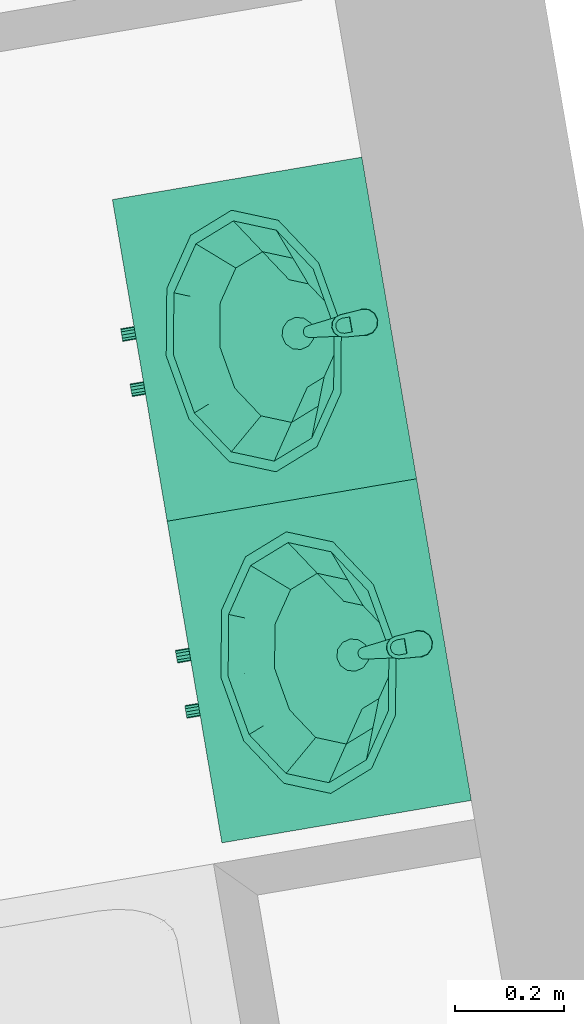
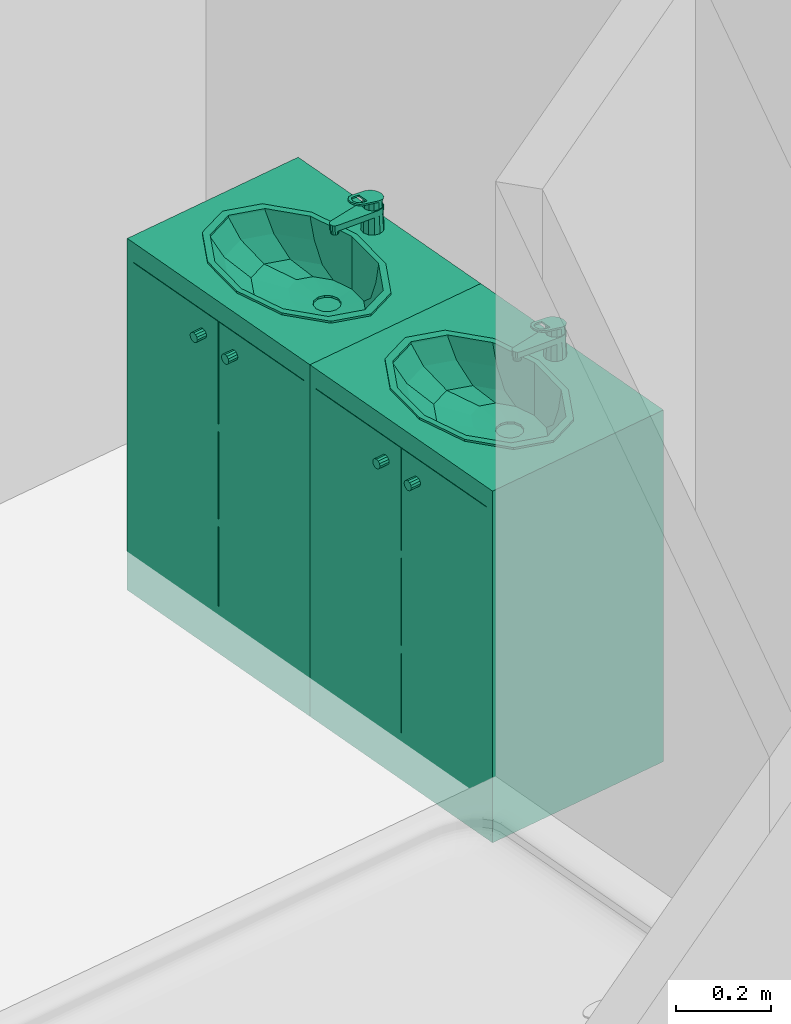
# One storey, part 94 of 121: 2 distribution elements.
"""IFC2X3 building model written with IfcOpenShell, lengths in metres."""

from ifc_helpers import new_model, entity, si_unit, converted_unit, derived_unit, money_unit, direction, frame, origin_with_axes, place, context, subcontext, project, spatial, open_shell, faceted_brep, surface_model, source, transform, mapped, type_object, element, save


model = new_model("IFC2X3")

# Units and contexts
model_context = context("Model", 3, precision=1e-05, world=origin_with_axes(), true_north=direction((0.0, 1.0)))
body_context = subcontext(model_context, "Body", "Model", "MODEL_VIEW")
ifc_project = project(units=[si_unit("LENGTHUNIT", "METRE"), si_unit("AREAUNIT", "SQUARE_METRE"), si_unit("VOLUMEUNIT", "CUBIC_METRE"), converted_unit("PLANEANGLEUNIT", "DEGREE", entity("IfcPlaneAngleMeasure", 0.0174532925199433), si_unit("PLANEANGLEUNIT", "RADIAN"), dimensions=[0, 0, 0, 0, 0, 0, 0]), money_unit("CHF"), converted_unit("TIMEUNIT", "Year", entity("IfcTimeMeasure", 31557600.0), si_unit("TIMEUNIT", "SECOND"), dimensions=[0, 0, 1, 0, 0, 0, 0]), si_unit("MASSUNIT", "GRAM", prefix="KILO"), si_unit("THERMODYNAMICTEMPERATUREUNIT", "DEGREE_CELSIUS"), si_unit("LUMINOUSINTENSITYUNIT", "LUMEN"), si_unit("ENERGYUNIT", "JOULE", prefix="MEGA"), derived_unit("THERMALCONDUCTANCEUNIT", [(si_unit("POWERUNIT", "WATT"), 1), (si_unit("LENGTHUNIT", "METRE"), -1), (si_unit("THERMODYNAMICTEMPERATUREUNIT", "KELVIN"), -1)]), derived_unit("SPECIFICHEATCAPACITYUNIT", [(si_unit("ENERGYUNIT", "JOULE"), 1), (si_unit("MASSUNIT", "GRAM", prefix="KILO"), -1), (si_unit("THERMODYNAMICTEMPERATUREUNIT", "KELVIN"), -1)]), derived_unit("MASSDENSITYUNIT", [(si_unit("MASSUNIT", "GRAM", prefix="KILO"), 1), (si_unit("VOLUMEUNIT", "CUBIC_METRE"), -1)])], contexts=[model_context])

# Site, building, storey
site_placement = place(None, origin_with_axes())
site = spatial("IfcSite", under=ifc_project, at=site_placement, Name="Site", CompositionType="ELEMENT")
building_placement = place(site_placement, origin_with_axes())
building = spatial("IfcBuilding", under=site, at=building_placement, Name="Bâtiment", CompositionType="ELEMENT")
storey_placement = place(building_placement, frame((0.0, 0.0, 2.75), z_axis=(0.0, 0.0, 1.0), x_axis=(1.0, 0.0, 0.0)))
storey = spatial("IfcBuildingStorey", under=building, at=storey_placement, Name="Etage 1", CompositionType="ELEMENT", Elevation=2.75)

# Distribution elements
distribution_element_type = type_object("IfcDistributionElementType", Name="Lavabo sur meuble 27")
shared_shape = source(origin_with_axes(), body_context, "Body", "SurfaceModel", [
    faceted_brep([(0.0, 0.0, 0.0), (0.6, 0.0, 0.0), (0.6, 0.0, 0.1), (0.0, 0.0, 0.1), (0.0, 0.4653441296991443, 0.0), (0.6, 0.4653441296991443, 0.0), (0.6, 0.4653441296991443, 0.1), (0.0, 0.4653441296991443, 0.1)], [[[0, 1, 2, 3]], [[0, 4, 5, 1]], [[1, 5, 6, 2]], [[3, 2, 6, 7]], [[4, 0, 3, 7]], [[5, 4, 7, 6]]]),
    faceted_brep([(0.0, 0.0, 0.1), (0.02, 0.0, 0.1), (0.02, 0.0, 0.12), (0.0, 0.0, 0.12), (0.0, 0.4653441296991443, 0.1), (0.02, 0.4653441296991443, 0.1), (0.58, 0.4653441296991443, 0.1), (0.6, 0.4653441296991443, 0.1), (0.6, 0.0, 0.1), (0.58, 0.0, 0.1), (0.58, 0.0, 0.12), (0.6, 0.0, 0.12), (0.6, 0.4653441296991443, 0.12), (0.58, 0.4653441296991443, 0.12), (0.02, 0.4653441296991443, 0.12), (0.0, 0.4653441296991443, 0.12)], [[[0, 1, 2, 3]], [[0, 4, 5, 6, 7, 8, 9, 1]], [[1, 9, 10, 2]], [[3, 2, 10, 11, 12, 13, 14, 15]], [[4, 0, 3, 15]], [[5, 4, 15, 14]], [[6, 5, 14, 13]], [[7, 6, 13, 12]], [[8, 7, 12, 11]], [[9, 8, 11, 10]]]),
    faceted_brep([(0.0, 0.0, 0.12), (0.02, 0.0, 0.12), (0.02, 0.0, 0.85), (0.0, 0.0, 0.85), (0.0, 0.4653441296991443, 0.12), (0.6, 0.4653441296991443, 0.12), (0.6, 0.0, 0.12), (0.58, 0.0, 0.12), (0.58, 0.4453441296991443, 0.12), (0.02, 0.4453441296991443, 0.12), (0.02, 0.4453441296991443, 0.85), (0.58, 0.4453441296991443, 0.85), (0.58, 0.0, 0.85), (0.6, 0.0, 0.85), (0.6, 0.4653441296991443, 0.85), (0.0, 0.4653441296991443, 0.85)], [[[0, 1, 2, 3]], [[0, 4, 5, 6, 7, 8, 9, 1]], [[1, 9, 10, 2]], [[3, 2, 10, 11, 12, 13, 14, 15]], [[4, 0, 3, 15]], [[5, 4, 15, 14]], [[6, 5, 14, 13]], [[7, 6, 13, 12]], [[8, 7, 12, 11]], [[9, 8, 11, 10]]]),
    faceted_brep([(0.58, 0.0, 0.3233333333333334), (0.58, 0.4453441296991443, 0.3233333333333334), (0.58, 0.4453441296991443, 0.3433333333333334), (0.58, 0.0, 0.3433333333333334), (0.02, 0.0, 0.3233333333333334), (0.02, 0.4453441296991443, 0.3233333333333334), (0.02, 0.4453441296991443, 0.3433333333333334), (0.02, 0.0, 0.3433333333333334)], [[[0, 1, 2, 3]], [[0, 4, 5, 1]], [[1, 5, 6, 2]], [[3, 2, 6, 7]], [[4, 0, 3, 7]], [[5, 4, 7, 6]]]),
    faceted_brep([(0.58, 0.0, 0.5666666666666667), (0.58, 0.4453441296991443, 0.5666666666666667), (0.58, 0.4453441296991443, 0.5866666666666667), (0.58, 0.0, 0.5866666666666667), (0.02, 0.0, 0.5666666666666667), (0.02, 0.4453441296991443, 0.5666666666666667), (0.02, 0.4453441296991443, 0.5866666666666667), (0.02, 0.0, 0.5866666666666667)], [[[0, 1, 2, 3]], [[0, 4, 5, 1]], [[1, 5, 6, 2]], [[3, 2, 6, 7]], [[4, 0, 3, 7]], [[5, 4, 7, 6]]]),
    faceted_brep([(0.0, 0.4653441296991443, 0.85), (0.6, 0.4653441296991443, 0.85), (0.6, 0.0, 0.85), (0.0, 0.0, 0.85), (0.4124999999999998, 0.08276825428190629, 0.85), (0.4948557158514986, 0.137672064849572, 0.85), (0.525, 0.2126720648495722, 0.85), (0.4948557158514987, 0.2876720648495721, 0.85), (0.4125, 0.3425758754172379, 0.85), (0.3, 0.3626720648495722, 0.85), (0.1875000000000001, 0.342575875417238, 0.85), (0.1051442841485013, 0.2876720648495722, 0.85), (0.07499999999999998, 0.2126720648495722, 0.85), (0.1051442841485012, 0.1376720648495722, 0.85), (0.1874999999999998, 0.08276825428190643, 0.85), (0.3, 0.06267206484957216, 0.85), (0.0, 0.4653441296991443, 0.9), (0.6, 0.4653441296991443, 0.9), (0.6, 0.0, 0.9), (0.0, 0.0, 0.9), (0.4124999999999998, 0.08276825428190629, 0.9), (0.4948557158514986, 0.137672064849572, 0.9), (0.525, 0.2126720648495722, 0.9), (0.4948557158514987, 0.2876720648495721, 0.9), (0.4125, 0.3425758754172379, 0.9), (0.3, 0.3626720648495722, 0.9), (0.1875000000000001, 0.342575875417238, 0.9), (0.1051442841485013, 0.2876720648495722, 0.9), (0.07499999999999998, 0.2126720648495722, 0.9), (0.1051442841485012, 0.1376720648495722, 0.9), (0.1874999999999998, 0.08276825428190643, 0.9), (0.3, 0.06267206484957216, 0.9)], [[[0, 1, 2, 3], [4, 5, 6, 7, 8, 9, 10, 11, 12, 13, 14, 15]], [[0, 16, 17, 1]], [[1, 17, 18, 2]], [[2, 18, 19, 3]], [[3, 19, 16, 0]], [[20, 21, 5, 4]], [[21, 22, 6, 5]], [[22, 23, 7, 6]], [[23, 24, 8, 7]], [[24, 25, 9, 8]], [[25, 26, 10, 9]], [[26, 27, 11, 10]], [[27, 28, 12, 11]], [[28, 29, 13, 12]], [[29, 30, 14, 13]], [[30, 31, 15, 14]], [[31, 20, 4, 15]], [[18, 17, 16, 19], [24, 23, 22, 21, 20, 31, 30, 29, 28, 27, 26, 25]]]),
    faceted_brep([(0.544, 0.2126720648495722, 0.905), (0.544, 0.2126720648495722, 0.9), (0.511310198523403, 0.2943684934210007, 0.9), (0.511310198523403, 0.2943684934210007, 0.905), (0.5113101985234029, 0.1309756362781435, 0.905), (0.5113101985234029, 0.1309756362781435, 0.9), (0.4219999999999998, 0.07116969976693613, 0.9), (0.3, 0.04927920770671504, 0.9), (0.1779999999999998, 0.07116969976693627, 0.9), (0.08868980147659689, 0.1309756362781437, 0.9), (0.05599999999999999, 0.2126720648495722, 0.9), (0.088689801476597, 0.2943684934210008, 0.9), (0.178, 0.3541744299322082, 0.9), (0.3, 0.3760649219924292, 0.9), (0.422, 0.3541744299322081, 0.9), (0.524, 0.2126720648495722, 0.9), (0.4939896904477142, 0.2876720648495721, 0.9), (0.412, 0.3425758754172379, 0.9), (0.3, 0.3626720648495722, 0.9), (0.1880000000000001, 0.342575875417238, 0.9), (0.1060103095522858, 0.2876720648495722, 0.9), (0.07599999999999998, 0.2126720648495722, 0.9), (0.1060103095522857, 0.1376720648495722, 0.9), (0.1879999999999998, 0.08276825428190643, 0.9), (0.3, 0.06267206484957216, 0.9), (0.4119999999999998, 0.08276825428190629, 0.9), (0.4939896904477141, 0.137672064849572, 0.9), (0.422, 0.3541744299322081, 0.905), (0.3, 0.3760649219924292, 0.905), (0.178, 0.3541744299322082, 0.905), (0.088689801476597, 0.2943684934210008, 0.905), (0.05599999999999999, 0.2126720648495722, 0.905), (0.08868980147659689, 0.1309756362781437, 0.905), (0.1779999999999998, 0.07116969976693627, 0.905), (0.3, 0.04927920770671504, 0.905), (0.4219999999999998, 0.07116969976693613, 0.905), (0.524, 0.2126720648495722, 0.905), (0.4939896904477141, 0.137672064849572, 0.905), (0.4119999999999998, 0.08276825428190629, 0.905), (0.3, 0.06267206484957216, 0.905), (0.1879999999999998, 0.08276825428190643, 0.905), (0.1060103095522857, 0.1376720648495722, 0.905), (0.07599999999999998, 0.2126720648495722, 0.905), (0.1060103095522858, 0.2876720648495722, 0.905), (0.1880000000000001, 0.342575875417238, 0.905), (0.3, 0.3626720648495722, 0.905), (0.412, 0.3425758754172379, 0.905), (0.4939896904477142, 0.2876720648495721, 0.905)], [[[0, 1, 2, 3]], [[4, 5, 1, 0]], [[1, 5, 6, 7, 8, 9, 10, 11, 12, 13, 14, 2], [15, 16, 17, 18, 19, 20, 21, 22, 23, 24, 25, 26]], [[3, 2, 14, 27]], [[0, 3, 27, 28, 29, 30, 31, 32, 33, 34, 35, 4], [36, 37, 38, 39, 40, 41, 42, 43, 44, 45, 46, 47]], [[35, 6, 5, 4]], [[34, 7, 6, 35]], [[33, 8, 7, 34]], [[32, 9, 8, 33]], [[31, 10, 9, 32]], [[30, 11, 10, 31]], [[29, 12, 11, 30]], [[28, 13, 12, 29]], [[27, 14, 13, 28]], [[47, 16, 15, 36]], [[46, 17, 16, 47]], [[45, 18, 17, 46]], [[44, 19, 18, 45]], [[43, 20, 19, 44]], [[42, 21, 20, 43]], [[41, 22, 21, 42]], [[40, 23, 22, 41]], [[39, 24, 23, 40]], [[38, 25, 24, 39]], [[37, 26, 25, 38]], [[36, 15, 26, 37]]]),
    surface_model("IfcShellBasedSurfaceModel", [(0.3, 0.3626720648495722, 0.9), (0.3, 0.3626720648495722, 0.848), (0.4008, 0.3445854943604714, 0.848), (0.412, 0.342575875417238, 0.9), (0.1879999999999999, 0.3425758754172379, 0.9), (0.1991999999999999, 0.3445854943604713, 0.848), (0.4745907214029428, 0.2951720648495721, 0.848), (0.4939896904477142, 0.2876720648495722, 0.9), (0.1060103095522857, 0.2876720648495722, 0.9), (0.1254092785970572, 0.2951720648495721, 0.848), (0.5016, 0.2276720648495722, 0.848), (0.524, 0.2126720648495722, 0.9), (0.07599999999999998, 0.2126720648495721, 0.9), (0.09839999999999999, 0.2276720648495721, 0.848), (0.4745907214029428, 0.1601720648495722, 0.848), (0.4939896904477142, 0.1376720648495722, 0.9), (0.1060103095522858, 0.1376720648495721, 0.9), (0.1254092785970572, 0.1601720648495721, 0.848), (0.4008, 0.1107586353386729, 0.848), (0.412, 0.08276825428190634, 0.9), (0.1879999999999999, 0.08276825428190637, 0.9), (0.1992, 0.110758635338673, 0.848), (0.3, 0.09267206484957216, 0.848), (0.3, 0.06267206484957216, 0.9)], [open_shell([[[0, 1, 2, 3]], [[4, 5, 1, 0]], [[3, 2, 6, 7]], [[8, 9, 5, 4]], [[7, 6, 10, 11]], [[12, 13, 9, 8]], [[11, 10, 14, 15]], [[16, 17, 13, 12]], [[15, 14, 18, 19]], [[20, 21, 17, 16]], [[19, 18, 22, 23]], [[23, 22, 21, 20]]])]),
    surface_model("IfcShellBasedSurfaceModel", [(0.3, 0.3626720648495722, 0.848), (0.3, 0.3626720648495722, 0.7959999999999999), (0.379632, 0.3483836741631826, 0.7959999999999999), (0.4008, 0.3445854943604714, 0.848), (0.1991999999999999, 0.3445854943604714, 0.848), (0.2203679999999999, 0.3483836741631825, 0.7959999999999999), (0.4379266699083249, 0.3093470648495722, 0.7959999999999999), (0.4745907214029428, 0.2951720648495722, 0.848), (0.1254092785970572, 0.2951720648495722, 0.848), (0.1620733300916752, 0.3093470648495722, 0.7959999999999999), (0.459264, 0.2560220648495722, 0.7959999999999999), (0.5016, 0.2276720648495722, 0.848), (0.09839999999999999, 0.2276720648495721, 0.848), (0.140736, 0.2560220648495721, 0.7959999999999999), (0.4379266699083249, 0.2026970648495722, 0.7959999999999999), (0.4745907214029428, 0.1601720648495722, 0.848), (0.1254092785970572, 0.1601720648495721, 0.848), (0.1620733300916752, 0.2026970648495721, 0.7959999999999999), (0.379632, 0.1636604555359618, 0.7959999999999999), (0.4008, 0.1107586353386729, 0.848), (0.1992, 0.110758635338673, 0.848), (0.220368, 0.1636604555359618, 0.7959999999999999), (0.3, 0.1493720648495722, 0.7959999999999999), (0.3, 0.09267206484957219, 0.848)], [open_shell([[[0, 1, 2, 3]], [[4, 5, 1, 0]], [[3, 2, 6, 7]], [[8, 9, 5, 4]], [[7, 6, 10, 11]], [[12, 13, 9, 8]], [[11, 10, 14, 15]], [[16, 17, 13, 12]], [[15, 14, 18, 19]], [[20, 21, 17, 16]], [[19, 18, 22, 23]], [[23, 22, 21, 20]]])]),
    surface_model("IfcShellBasedSurfaceModel", [(0.3, 0.3626720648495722, 0.7959999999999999), (0.3, 0.3626720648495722, 0.7699999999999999), (0.35016816, 0.3536703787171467, 0.7699999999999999), (0.379632, 0.3483836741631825, 0.7959999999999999), (0.2203679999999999, 0.3483836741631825, 0.7959999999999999), (0.2498318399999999, 0.3536703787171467, 0.7699999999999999), (0.3868938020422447, 0.3290773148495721, 0.7699999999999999), (0.4379266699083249, 0.3093470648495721, 0.7959999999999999), (0.1620733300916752, 0.3093470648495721, 0.7959999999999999), (0.2131061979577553, 0.3290773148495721, 0.7699999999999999), (0.40033632, 0.2954825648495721, 0.7699999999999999), (0.459264, 0.2560220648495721, 0.7959999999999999), (0.140736, 0.2560220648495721, 0.7959999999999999), (0.19966368, 0.2954825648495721, 0.7699999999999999), (0.3868938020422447, 0.2618878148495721, 0.7699999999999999), (0.4379266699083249, 0.2026970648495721, 0.7959999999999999), (0.1620733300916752, 0.2026970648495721, 0.7959999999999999), (0.2131061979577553, 0.2618878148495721, 0.7699999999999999), (0.35016816, 0.2372947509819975, 0.7699999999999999), (0.379632, 0.1636604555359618, 0.7959999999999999), (0.220368, 0.1636604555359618, 0.7959999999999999), (0.24983184, 0.2372947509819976, 0.7699999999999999), (0.3, 0.2282930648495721, 0.7699999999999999), (0.3, 0.1493720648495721, 0.7959999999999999)], [open_shell([[[0, 1, 2, 3]], [[4, 5, 1, 0]], [[3, 2, 6, 7]], [[8, 9, 5, 4]], [[7, 6, 10, 11]], [[12, 13, 9, 8]], [[11, 10, 14, 15]], [[16, 17, 13, 12]], [[15, 14, 18, 19]], [[20, 21, 17, 16]], [[19, 18, 22, 23]], [[23, 22, 21, 20]]])]),
    surface_model("IfcShellBasedSurfaceModel", [(0.3, 0.3626720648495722, 0.7699999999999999), (0.315, 0.3214633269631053, 0.7629999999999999), (0.35016816, 0.3536703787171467, 0.7699999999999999), (0.3, 0.3254825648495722, 0.7629999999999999), (0.3259807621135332, 0.3104825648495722, 0.7629999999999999), (0.2498318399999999, 0.3536703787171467, 0.7699999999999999), (0.3868938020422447, 0.3290773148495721, 0.7699999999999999), (0.285, 0.3214633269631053, 0.7629999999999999), (0.33, 0.2954825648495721, 0.7629999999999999), (0.2131061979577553, 0.3290773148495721, 0.7699999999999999), (0.40033632, 0.2954825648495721, 0.7699999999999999), (0.2740192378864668, 0.3104825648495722, 0.7629999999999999), (0.3259807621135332, 0.2804825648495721, 0.7629999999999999), (0.19966368, 0.2954825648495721, 0.7699999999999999), (0.3868938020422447, 0.2618878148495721, 0.7699999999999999), (0.27, 0.2954825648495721, 0.7629999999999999), (0.315, 0.269501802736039, 0.7629999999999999), (0.2131061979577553, 0.2618878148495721, 0.7699999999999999), (0.35016816, 0.2372947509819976, 0.7699999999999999), (0.2740192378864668, 0.2804825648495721, 0.7629999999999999), (0.3, 0.2654825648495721, 0.7629999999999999), (0.24983184, 0.2372947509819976, 0.7699999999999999), (0.3, 0.2282930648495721, 0.7699999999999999), (0.285, 0.269501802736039, 0.7629999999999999)], [open_shell([[[0, 1, 2]], [[0, 3, 1]], [[2, 1, 4]], [[5, 3, 0]], [[2, 4, 6]], [[5, 7, 3]], [[6, 4, 8]], [[9, 7, 5]], [[6, 8, 10]], [[9, 11, 7]], [[10, 8, 12]], [[13, 11, 9]], [[10, 12, 14]], [[13, 15, 11]], [[14, 12, 16]], [[17, 15, 13]], [[14, 16, 18]], [[17, 19, 15]], [[18, 16, 20]], [[21, 19, 17]], [[18, 20, 22]], [[21, 23, 19]], [[22, 20, 23]], [[22, 23, 21]]])]),
    surface_model("IfcShellBasedSurfaceModel", [(0.33, 0.2954825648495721, 0.763), (0.33, 0.2954825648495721, 0.758), (0.3259807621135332, 0.3104825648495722, 0.758), (0.3259807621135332, 0.3104825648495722, 0.763), (0.3259807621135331, 0.2804825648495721, 0.763), (0.3259807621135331, 0.2804825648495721, 0.758), (0.3149999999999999, 0.269501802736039, 0.758), (0.3, 0.2654825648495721, 0.758), (0.285, 0.269501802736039, 0.758), (0.2740192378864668, 0.2804825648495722, 0.758), (0.27, 0.2954825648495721, 0.758), (0.2740192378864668, 0.3104825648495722, 0.758), (0.285, 0.3214633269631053, 0.758), (0.3, 0.3254825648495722, 0.758), (0.315, 0.3214633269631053, 0.758), (0.315, 0.3214633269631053, 0.763), (0.3149999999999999, 0.269501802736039, 0.763), (0.3, 0.2654825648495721, 0.763), (0.285, 0.269501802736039, 0.763), (0.2740192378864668, 0.2804825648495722, 0.763), (0.27, 0.2954825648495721, 0.763), (0.2740192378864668, 0.3104825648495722, 0.763), (0.285, 0.3214633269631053, 0.763), (0.3, 0.3254825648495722, 0.763)], [open_shell([[[0, 1, 2, 3]], [[4, 5, 1, 0]], [[1, 5, 6, 7, 8, 9, 10, 11, 12, 13, 14, 2]], [[3, 2, 14, 15]], [[16, 6, 5, 4]], [[17, 7, 6, 16]], [[18, 8, 7, 17]], [[19, 9, 8, 18]], [[20, 10, 9, 19]], [[21, 11, 10, 20]], [[22, 12, 11, 21]], [[23, 13, 12, 22]], [[15, 14, 13, 23]]])]),
    faceted_brep([(0.3125, 0.4406587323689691, 0.9), (0.3, 0.4440080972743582, 0.9), (0.3, 0.4402100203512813, 0.9759615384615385), (0.310587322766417, 0.4373458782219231, 0.976507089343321), (0.3216506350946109, 0.4315080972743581, 0.9), (0.325, 0.4190080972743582, 0.9), (0.3216506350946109, 0.4065080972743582, 0.9), (0.3125, 0.3973574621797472, 0.9), (0.3, 0.3940080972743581, 0.9), (0.2875, 0.3973574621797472, 0.9), (0.278349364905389, 0.4065080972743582, 0.9), (0.275, 0.4190080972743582, 0.9), (0.278349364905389, 0.4315080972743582, 0.9), (0.2875, 0.4406587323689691, 0.9), (0.289412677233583, 0.4373458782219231, 0.976507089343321), (0.2817264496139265, 0.4295583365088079, 0.9779904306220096), (0.279, 0.4190080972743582, 0.98), (0.2818996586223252, 0.4085578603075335, 0.9819905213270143), (0.2895858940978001, 0.400970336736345, 0.9834357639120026), (0.3, 0.3982062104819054, 0.9839622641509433), (0.3104141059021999, 0.400970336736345, 0.9834357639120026), (0.3181003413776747, 0.4085578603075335, 0.9819905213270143), (0.321, 0.4190080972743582, 0.98), (0.3182735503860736, 0.4295583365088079, 0.9779904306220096)], [[[0, 1, 2, 3]], [[0, 4, 5, 6, 7, 8, 9, 10, 11, 12, 13, 1]], [[1, 13, 14, 2]], [[3, 2, 14, 15, 16, 17, 18, 19, 20, 21, 22, 23]], [[4, 0, 3, 23]], [[5, 4, 23, 22]], [[6, 5, 22, 21]], [[7, 6, 21, 20]], [[8, 7, 20, 19]], [[9, 8, 19, 18]], [[10, 9, 18, 17]], [[11, 10, 17, 16]], [[12, 11, 16, 15]], [[13, 12, 15, 14]]]),
    faceted_brep([(0.309, 0.3160080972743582, 0.935), (0.3077942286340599, 0.3205080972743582, 0.935), (0.3077942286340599, 0.3205080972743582, 0.9450000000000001), (0.309, 0.3160080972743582, 0.9450000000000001), (0.3077942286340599, 0.3115080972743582, 0.935), (0.3045, 0.3082138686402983, 0.935), (0.3, 0.3070080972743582, 0.935), (0.2955, 0.3082138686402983, 0.935), (0.2922057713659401, 0.3115080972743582, 0.935), (0.291, 0.3160080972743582, 0.935), (0.2922057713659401, 0.3205080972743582, 0.935), (0.2955, 0.3238023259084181, 0.935), (0.3, 0.3250080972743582, 0.935), (0.3045, 0.3238023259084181, 0.935), (0.3045, 0.3238023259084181, 0.9450000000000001), (0.3, 0.3250080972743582, 0.9450000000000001), (0.2955, 0.3238023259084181, 0.9450000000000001), (0.2922057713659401, 0.3205080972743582, 0.9450000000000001), (0.291, 0.3160080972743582, 0.9450000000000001), (0.2922057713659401, 0.3115080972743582, 0.9450000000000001), (0.2955, 0.3082138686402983, 0.9450000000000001), (0.3, 0.3070080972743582, 0.9450000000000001), (0.3045, 0.3082138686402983, 0.9450000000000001), (0.3077942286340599, 0.3115080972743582, 0.9450000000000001)], [[[0, 1, 2, 3]], [[0, 4, 5, 6, 7, 8, 9, 10, 11, 12, 13, 1]], [[1, 13, 14, 2]], [[3, 2, 14, 15, 16, 17, 18, 19, 20, 21, 22, 23]], [[4, 0, 3, 23]], [[5, 4, 23, 22]], [[6, 5, 22, 21]], [[7, 6, 21, 20]], [[8, 7, 20, 19]], [[9, 8, 19, 18]], [[10, 9, 18, 17]], [[11, 10, 17, 16]], [[12, 11, 16, 15]], [[13, 12, 15, 14]]]),
    faceted_brep([(0.2871282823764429, 0.439264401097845, 0.9600000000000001), (0.2782721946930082, 0.4292013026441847, 0.9600000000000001), (0.2761946, 0.4159581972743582, 0.9600000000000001), (0.2890880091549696, 0.3146197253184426, 0.9600000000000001), (0.2909711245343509, 0.3097249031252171, 0.9600000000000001), (0.2949066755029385, 0.3062583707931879, 0.9600000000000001), (0.300000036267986, 0.305008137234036, 0.9600000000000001), (0.3050933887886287, 0.3062584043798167, 0.9600000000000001), (0.309028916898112, 0.3097249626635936, 0.9600000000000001), (0.310912, 0.3146197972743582, 0.9600000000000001), (0.3238053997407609, 0.4159581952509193, 0.9600000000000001), (0.3217278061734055, 0.4292013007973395, 0.9600000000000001), (0.3128717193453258, 0.4392644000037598, 0.9600000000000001), (0.300000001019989, 0.44300807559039, 0.9600000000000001), (0.311, 0.4380606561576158, 0.9600000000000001), (0.3190525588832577, 0.4300080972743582, 0.9600000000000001), (0.322, 0.4190080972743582, 0.9600000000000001), (0.3190525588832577, 0.4080080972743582, 0.9600000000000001), (0.3109999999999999, 0.3999555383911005, 0.9600000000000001), (0.3, 0.3970080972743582, 0.9600000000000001), (0.289, 0.3999555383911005, 0.9600000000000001), (0.2809474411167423, 0.4080080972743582, 0.9600000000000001), (0.278, 0.4190080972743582, 0.9600000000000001), (0.2809474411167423, 0.4300080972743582, 0.9600000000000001), (0.289, 0.4380606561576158, 0.9600000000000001), (0.3, 0.4410080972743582, 0.9600000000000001), (0.2782721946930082, 0.4292013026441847, 0.9450000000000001), (0.2871282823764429, 0.439264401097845, 0.9450000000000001), (0.2761946, 0.4159581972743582, 0.9450000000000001), (0.2890880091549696, 0.3146197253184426, 0.9450000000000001), (0.2909711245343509, 0.3097249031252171, 0.9450000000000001), (0.2949066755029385, 0.3062583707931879, 0.9450000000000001), (0.300000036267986, 0.305008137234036, 0.9450000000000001), (0.3050933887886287, 0.3062584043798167, 0.9450000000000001), (0.309028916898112, 0.3097249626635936, 0.9450000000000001), (0.310912, 0.3146197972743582, 0.9450000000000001), (0.3238053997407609, 0.4159581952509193, 0.9450000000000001), (0.3217278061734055, 0.4292013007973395, 0.9450000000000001), (0.3128717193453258, 0.4392644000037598, 0.9450000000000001), (0.300000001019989, 0.44300807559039, 0.9450000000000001), (0.311375, 0.4387101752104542, 0.9450000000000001), (0.319702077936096, 0.4303830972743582, 0.9450000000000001), (0.32275, 0.4190080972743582, 0.9450000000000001), (0.319702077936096, 0.4076330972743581, 0.9450000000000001), (0.311375, 0.3993060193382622, 0.9450000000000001), (0.3, 0.3962580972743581, 0.9450000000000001), (0.288625, 0.3993060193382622, 0.9450000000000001), (0.280297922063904, 0.4076330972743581, 0.9450000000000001), (0.2772499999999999, 0.4190080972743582, 0.9450000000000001), (0.280297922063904, 0.4303830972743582, 0.9450000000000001), (0.288625, 0.4387101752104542, 0.9450000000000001), (0.3, 0.4417580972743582, 0.9450000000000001)], [[[0, 1, 2, 3, 4, 5, 6, 7, 8, 9, 10, 11, 12, 13], [14, 15, 16, 17, 18, 19, 20, 21, 22, 23, 24, 25]], [[26, 1, 0, 27]], [[28, 2, 1, 26]], [[29, 3, 2, 28]], [[30, 4, 3, 29]], [[31, 5, 4, 30]], [[32, 6, 5, 31]], [[33, 7, 6, 32]], [[34, 8, 7, 33]], [[35, 9, 8, 34]], [[36, 10, 9, 35]], [[37, 11, 10, 36]], [[38, 12, 11, 37]], [[39, 13, 12, 38]], [[27, 0, 13, 39]], [[40, 41, 15, 14]], [[41, 42, 16, 15]], [[42, 43, 17, 16]], [[43, 44, 18, 17]], [[44, 45, 19, 18]], [[20, 19, 45, 46]], [[21, 20, 46, 47]], [[22, 21, 47, 48]], [[23, 22, 48, 49]], [[24, 23, 49, 50]], [[50, 51, 25, 24]], [[51, 40, 14, 25]], [[32, 31, 30, 29, 28, 26, 27, 39, 38, 37, 36, 35, 34, 33], [44, 43, 42, 41, 40, 51, 50, 49, 48, 47, 46, 45]]]),
    faceted_brep([(0.323893, 0.4173155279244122, 0.9803223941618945), (0.3212964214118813, 0.4297828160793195, 0.9779476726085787), (0.3212964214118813, 0.4305312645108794, 0.9818770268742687), (0.323893, 0.4180639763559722, 0.9842517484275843), (0.3209459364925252, 0.377171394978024, 0.9879688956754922), (0.317663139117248, 0.3674937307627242, 0.9898122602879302), (0.3100614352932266, 0.3605443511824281, 0.9911359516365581), (0.2999995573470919, 0.3580224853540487, 0.9916163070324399), (0.289937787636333, 0.3605447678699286, 0.9911358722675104), (0.2823363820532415, 0.3674944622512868, 0.9898121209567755), (0.279054, 0.3771722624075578, 0.9879687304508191), (0.2761069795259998, 0.4173158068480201, 0.9803223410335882), (0.2787037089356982, 0.4297830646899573, 0.9779476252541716), (0.2875283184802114, 0.4390992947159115, 0.976173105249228), (0.3000001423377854, 0.4425400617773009, 0.9755177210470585), (0.3124719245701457, 0.4390991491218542, 0.9761731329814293), (0.314, 0.3934672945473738, 0.9848649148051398), (0.286, 0.3934672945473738, 0.9848649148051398), (0.286, 0.37865166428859, 0.9876869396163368), (0.2878756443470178, 0.3717752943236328, 0.9889967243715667), (0.293, 0.3667414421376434, 0.9899555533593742), (0.3, 0.3648989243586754, 0.9903065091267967), (0.307, 0.3667414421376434, 0.9899555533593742), (0.3121243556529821, 0.3717752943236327, 0.9889967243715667), (0.314, 0.37865166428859, 0.9876869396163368), (0.3124719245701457, 0.4398475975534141, 0.9801024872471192), (0.3000001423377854, 0.4432885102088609, 0.9794470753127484), (0.2875283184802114, 0.4398477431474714, 0.9801024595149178), (0.2787037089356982, 0.4305315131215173, 0.9818769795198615), (0.2761069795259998, 0.4180642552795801, 0.9842516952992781), (0.279054, 0.3779207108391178, 0.991898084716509), (0.2823363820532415, 0.3682429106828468, 0.9937414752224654), (0.289937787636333, 0.3612932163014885, 0.9950652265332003), (0.2999995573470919, 0.3587709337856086, 0.9955456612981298), (0.3100614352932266, 0.3612927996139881, 0.995065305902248), (0.317663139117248, 0.3682421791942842, 0.9937416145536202), (0.3209459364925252, 0.377919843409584, 0.9918982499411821), (0.314, 0.3942157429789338, 0.9887942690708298), (0.314, 0.3794001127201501, 0.9916162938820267), (0.3121243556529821, 0.3725237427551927, 0.9929260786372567), (0.307, 0.3674898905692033, 0.9938849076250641), (0.3, 0.3656473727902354, 0.9942358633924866), (0.293, 0.3674898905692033, 0.9938849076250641), (0.2878756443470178, 0.3725237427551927, 0.9929260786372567), (0.286, 0.3794001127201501, 0.9916162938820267), (0.286, 0.3942157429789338, 0.9887942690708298)], [[[0, 1, 2, 3]], [[0, 4, 5, 6, 7, 8, 9, 10, 11, 12, 13, 14, 15, 1], [16, 17, 18, 19, 20, 21, 22, 23, 24]], [[1, 15, 25, 2]], [[3, 2, 25, 26, 27, 28, 29, 30, 31, 32, 33, 34, 35, 36], [37, 38, 39, 40, 41, 42, 43, 44, 45]], [[4, 0, 3, 36]], [[5, 4, 36, 35]], [[6, 5, 35, 34]], [[7, 6, 34, 33]], [[8, 7, 33, 32]], [[9, 8, 32, 31]], [[10, 9, 31, 30]], [[11, 10, 30, 29]], [[12, 11, 29, 28]], [[13, 12, 28, 27]], [[14, 13, 27, 26]], [[15, 14, 26, 25]], [[17, 16, 37, 45]], [[18, 17, 45, 44]], [[19, 18, 44, 43]], [[20, 19, 43, 42]], [[21, 20, 42, 41]], [[22, 21, 41, 40]], [[23, 22, 40, 39]], [[24, 23, 39, 38]], [[16, 24, 38, 37]]]),
    surface_model("IfcShellBasedSurfaceModel", [(0.001500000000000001, 0.0, 0.1015), (0.001500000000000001, 0.0, 0.8485), (0.2985, 0.0, 0.8485), (0.2985, 0.0, 0.1015)], [open_shell([[[0, 1, 2, 3]]])]),
    faceted_brep([(0.2588923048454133, 0.0, 0.7855), (0.2545, 0.0, 0.7811076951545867), (0.2485, 0.0, 0.7795), (0.2425, 0.0, 0.7811076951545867), (0.2381076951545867, 0.0, 0.7855), (0.2365, 0.0, 0.7915), (0.2381076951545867, 0.0, 0.7975), (0.2425, 0.0, 0.8018923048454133), (0.2485, 0.0, 0.8035), (0.2545, 0.0, 0.8018923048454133), (0.2588923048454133, 0.0, 0.7975), (0.2605, 0.0, 0.7915), (0.2588923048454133, -0.025, 0.7855), (0.2545, -0.025, 0.7811076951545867), (0.2485, -0.025, 0.7795), (0.2425, -0.025, 0.7811076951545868), (0.2381076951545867, -0.025, 0.7855), (0.2365, -0.025, 0.7915), (0.2381076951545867, -0.025, 0.7975), (0.2425, -0.025, 0.8018923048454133), (0.2485, -0.025, 0.8035), (0.2545, -0.025, 0.8018923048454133), (0.2588923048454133, -0.025, 0.7975), (0.2605, -0.025, 0.7915)], [[[0, 1, 2, 3, 4, 5, 6, 7, 8, 9, 10, 11]], [[1, 0, 12, 13]], [[2, 1, 13, 14]], [[3, 2, 14, 15]], [[4, 3, 15, 16]], [[5, 4, 16, 17]], [[6, 5, 17, 18]], [[7, 6, 18, 19]], [[8, 7, 19, 20]], [[9, 8, 20, 21]], [[10, 9, 21, 22]], [[11, 10, 22, 23]], [[0, 11, 23, 12]], [[12, 23, 22, 21, 20, 19, 18, 17, 16, 15, 14, 13]]]),
    surface_model("IfcShellBasedSurfaceModel", [(0.5985, 0.0, 0.1015), (0.3015000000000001, 0.0, 0.1015), (0.3015000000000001, 0.0, 0.8485), (0.5985, 0.0, 0.8485)], [open_shell([[[0, 1, 2, 3]]])]),
    faceted_brep([(0.3411076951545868, 0.0, 0.7855), (0.3395, 0.0, 0.7915), (0.3411076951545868, 0.0, 0.7975), (0.3455, 0.0, 0.8018923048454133), (0.3515, 0.0, 0.8035), (0.3575, 0.0, 0.8018923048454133), (0.3618923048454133, 0.0, 0.7975), (0.3635, 0.0, 0.7915), (0.3618923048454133, 0.0, 0.7855), (0.3575, 0.0, 0.7811076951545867), (0.3515, 0.0, 0.7795), (0.3455, 0.0, 0.7811076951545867), (0.3411076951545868, -0.025, 0.7855), (0.3395, -0.025, 0.7915), (0.3411076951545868, -0.025, 0.7975), (0.3455, -0.025, 0.8018923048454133), (0.3515, -0.025, 0.8035), (0.3575, -0.025, 0.8018923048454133), (0.3618923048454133, -0.025, 0.7975), (0.3635, -0.025, 0.7915), (0.3618923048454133, -0.025, 0.7855), (0.3575, -0.025, 0.7811076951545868), (0.3515, -0.025, 0.7795), (0.3455, -0.025, 0.7811076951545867)], [[[0, 1, 2, 3, 4, 5, 6, 7, 8, 9, 10, 11]], [[0, 12, 13, 1]], [[1, 13, 14, 2]], [[2, 14, 15, 3]], [[3, 15, 16, 4]], [[4, 16, 17, 5]], [[5, 17, 18, 6]], [[6, 18, 19, 7]], [[7, 19, 20, 8]], [[8, 20, 21, 9]], [[9, 21, 22, 10]], [[10, 22, 23, 11]], [[11, 23, 12, 0]], [[12, 23, 22, 21, 20, 19, 18, 17, 16, 15, 14, 13]]]),
])
for number, where, z_axis, x_axis, name in (
    (1, (9587.023681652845, -1024.622405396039, 57.59999999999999), (0.0, 0.0, 1.0), (0.1677527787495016, -0.9858290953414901, 0.0), "Obj.-004"),
    (2, (9587.124333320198, -1025.213902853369, 57.59999999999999), (0.0, 0.0, 1.0), (0.1677527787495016, -0.9858290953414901, 0.0), "Obj.-004"),
):
    element("IfcDistributionElement", number, at=place(storey_placement, frame(where, z_axis=z_axis, x_axis=x_axis)), inside=storey, type_object=distribution_element_type, Name=name, context=body_context, shape_type="MappedRepresentation", body=[
        mapped(shared_shape, transform((0.0, 0.0, 0.0))),
    ])

save(model, "model.ifc")
